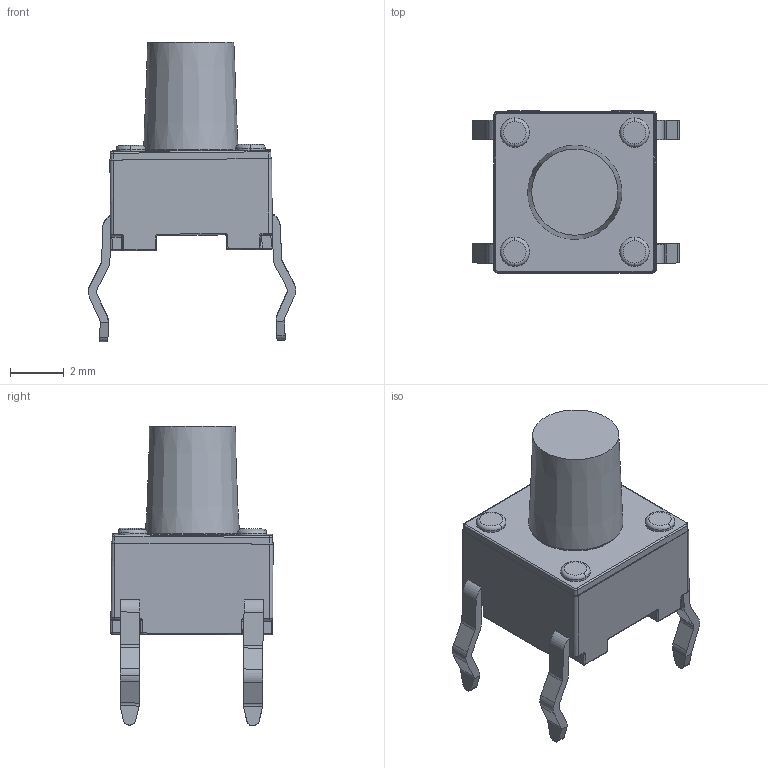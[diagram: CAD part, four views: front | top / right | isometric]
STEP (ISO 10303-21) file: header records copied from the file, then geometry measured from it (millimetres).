
FILE_DESCRIPTION(('FreeCAD Model'),'2;1');
FILE_NAME('C:/Users/Metaltex-99/Desktop/A06-7.7.stp', '2021-08-13T14:31:40',('Engenharia Metaltex'),('Metaltex'), 'Open CASCADE STEP processor 7.3','FreeCAD','Unknown');
FILE_SCHEMA(('AUTOMOTIVE_DESIGN { 1 0 10303 214 1 1 1 1 }'));
Length unit declared in the file: millimetre
Products named in the file (3): A06-7.7; Cilindro; Base
Assembly tree (2 placements, depth 2):
  A06-7.7
    Cilindro
    Base
Bounding box: 7.69 x 6.03 x 11.14 mm (x, y, z)
Volume: 161.2 mm3; surface area: 260.8 mm2
Topology: 2 solids, 2 shells, 294 faces, 716 edges, 408 vertices
Faces by surface type: cylinder 139, plane 90, torus 38, sphere 24, revolution 2, cone 1
Full cylindrical faces by diameter (mm): 3.46 x1
Entity records: 20696 total; most frequent: CARTESIAN_POINT 4354, DIRECTION 2863, LINE 1523, VECTOR 1523, ORIENTED_EDGE 1384, PCURVE 1384, DEFINITIONAL_REPRESENTATION 1384, EDGE_CURVE 692
